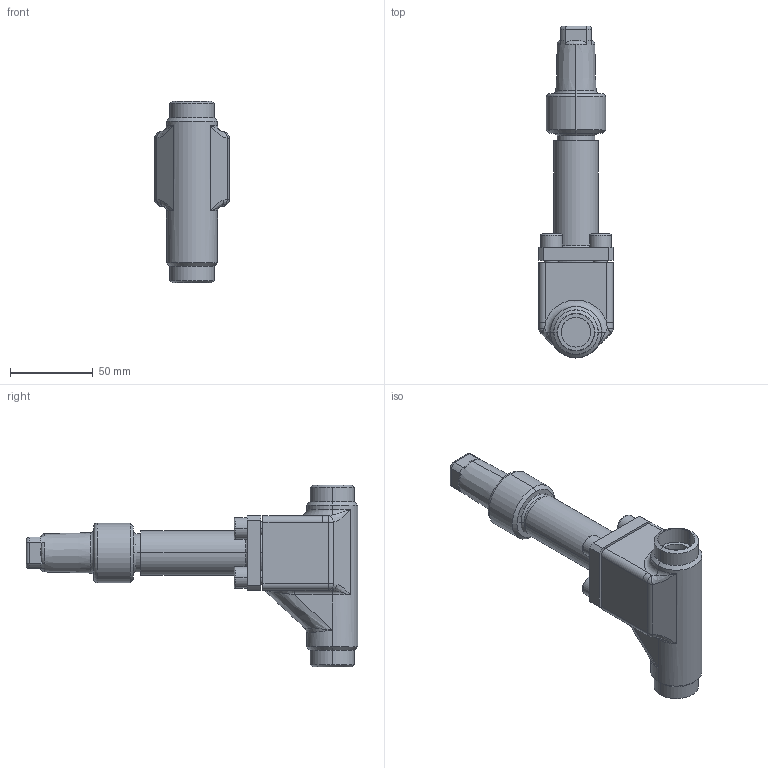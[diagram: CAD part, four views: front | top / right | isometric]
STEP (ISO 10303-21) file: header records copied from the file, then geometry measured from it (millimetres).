
FILE_DESCRIPTION (( 'STEP AP214' ), '1' );
FILE_NAME ('AVR96310-DN020_R1_PS40.STEP', '2006-05-02T07:53:42', ( 'Herr Grams' ), ( 'AWP GmbH' ), 'SwSTEP 2.0', 'SolidWorks 2002296', '' );
FILE_SCHEMA (( 'AUTOMOTIVE_DESIGN' ));
Length unit declared in the file: millimetre
Products named in the file (6): AVR96310-DN020_R1_PS40; Kappe96300E10_DN6-20_Standard; Gehäuse96300E11-DN20_PS40_R1_Standard; AVR96310E11_Deck+Schr-DN20_Standard; Deckel96310E11-DN20_PS40_Standard; Zylinderschraube-DIN912_M 8x 20
Assembly tree (8 placements, depth 3):
  AVR96310-DN020_R1_PS40
    Gehäuse96300E11-DN20_PS40_R1_Standard
    AVR96310E11_Deck+Schr-DN20_Standard
      Zylinderschraube-DIN912_M 8x 20  x4
      Deckel96310E11-DN20_PS40_Standard
    Kappe96300E10_DN6-20_Standard
Bounding box: 45 x 201 x 110 mm (x, y, z)
Volume: 199761.2 mm3; surface area: 56637.2 mm2
Topology: 7 solids, 7 shells, 254 faces, 564 edges, 339 vertices
Faces by surface type: cylinder 95, plane 86, torus 28, cone 26, bspline 13, sphere 6
Entity records: 17081 total; most frequent: CARTESIAN_POINT 12000, DIRECTION 977, ORIENTED_EDGE 888, EDGE_CURVE 444, AXIS2_PLACEMENT_3D 407, VERTEX_POINT 267, EDGE_LOOP 227, CIRCLE 208
